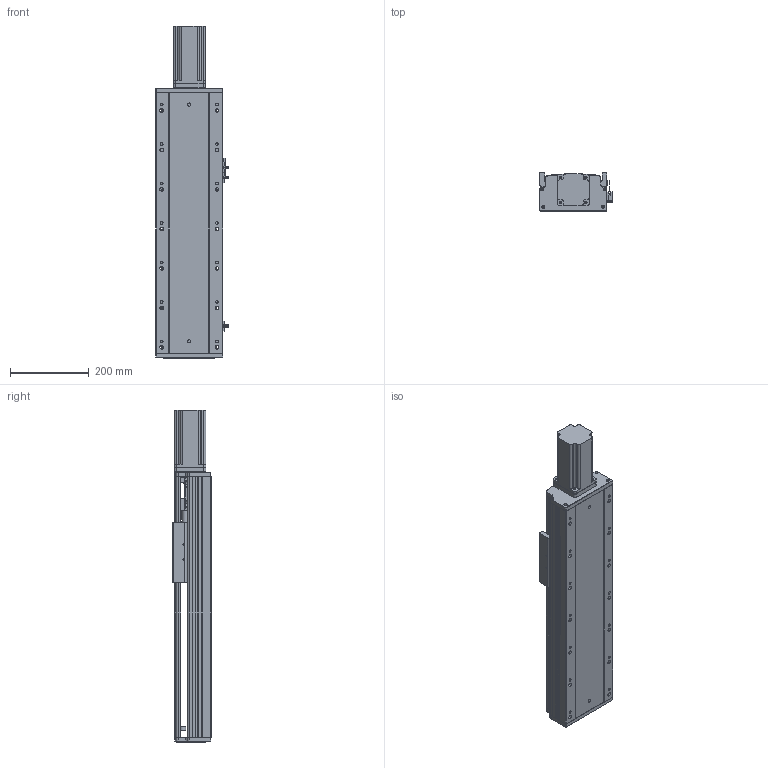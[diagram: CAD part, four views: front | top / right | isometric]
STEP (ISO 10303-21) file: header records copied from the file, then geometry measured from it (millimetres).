
FILE_DESCRIPTION (( 'STEP AP203' ), '1' );
FILE_NAME ('RY170-L2510-300-MK(FK17).SLDASM_350.step', '2022-08-23T02:00:11', ( '' ), ( '' ), 'SwSTEP 2.0', 'SolidWorks 2016', '' );
FILE_SCHEMA (( 'CONFIG_CONTROL_DESIGN' ));
Length unit declared in the file: millimetre
Products named in the file (15): 滅袉蝶18-28; RY170臏賑輸25佪裝蹟譫; 750W萇儂梓袧蛌諉啣; 滅袉蝶18-10; 侂狟400W侜督萇儂; RY170ヶ醱裔啣; RY170电机端支撑座(25丝杆7004轴承)-压铸(FK17); 覜茼ん672; RY170綴裔啣; RY170-300倰第菁釱-MK_350; RY170-300倰第裔啣-MK_350; RY170-L2510-300-MK(FK17).SLDASM_350; 15; 侂狟750W萇儂ㄗ80遺ㄘ; RY170外置感应片(200共用）
Assembly tree (16 placements, depth 3):
  RY170-L2510-300-MK(FK17).SLDASM_350
    RY170-300倰第菁釱-MK_350
    RY170-300倰第裔啣-MK_350
    RY170臏賑輸25佪裝蹟譫
    侂狟400W侜督萇儂
      15
    RY170綴裔啣
    RY170电机端支撑座(25丝杆7004轴承)-压铸(FK17)
    覜茼ん672  x3
    RY170外置感应片(200共用）
    RY170ヶ醱裔啣
    滅袉蝶18-28
    滅袉蝶18-10
    侂狟750W萇儂ㄗ80遺ㄘ
    750W萇儂梓袧蛌諉啣
Bounding box: 183.7 x 97 x 841 mm (x, y, z)
Volume: 5026259 mm3; surface area: 1343566.4 mm2
Topology: 15 solids, 15 shells, 2151 faces, 6155 edges, 3950 vertices
Faces by surface type: plane 1014, cylinder 890, cone 211, bspline 36
Entity records: 69563 total; most frequent: CARTESIAN_POINT 16114, ORIENTED_EDGE 11082, DIRECTION 10671, EDGE_CURVE 5541, AXIS2_PLACEMENT_3D 3696, VERTEX_POINT 3630, VECTOR 3279, LINE 3279
